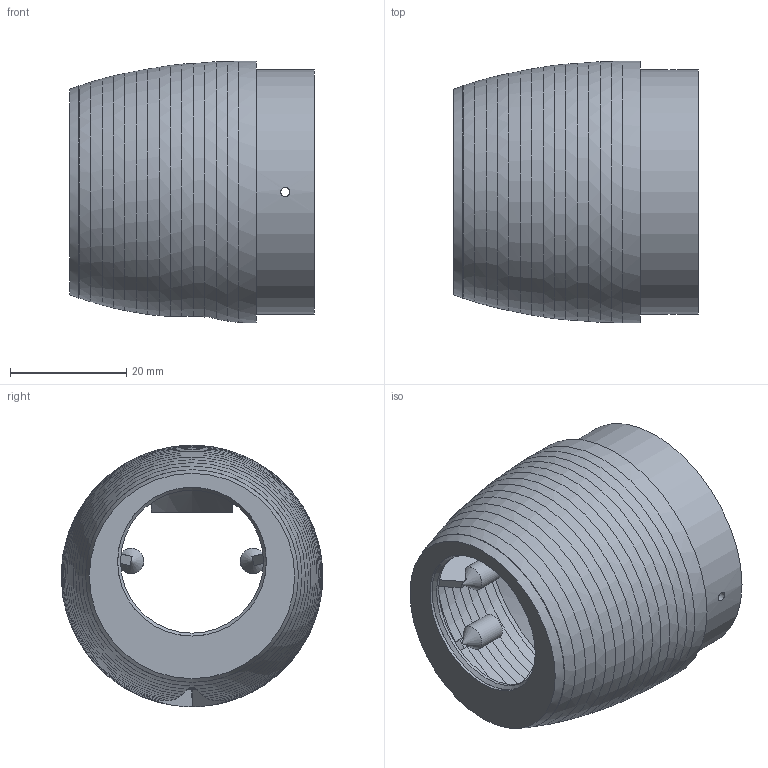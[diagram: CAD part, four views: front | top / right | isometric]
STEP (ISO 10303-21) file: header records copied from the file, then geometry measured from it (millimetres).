
FILE_DESCRIPTION(('Open CASCADE Model'),'2;1');
FILE_NAME('Open CASCADE Shape Model','2026-10-04T08:08:20',('Author'),( 'Open CASCADE'),'Open CASCADE STEP processor 7.9','Open CASCADE 7.9' ,'Unknown');
FILE_SCHEMA(('AUTOMOTIVE_DESIGN { 1 0 10303 214 1 1 1 1 }'));
Length unit declared in the file: millimetre
Products named in the file (1): Open CASCADE STEP translator 7.9 7
Bounding box: 42.1 x 45 x 45 mm (x, y, z)
Volume: 11750.8 mm3; surface area: 14182.7 mm2
Topology: 1 solids, 1 shells, 267 faces, 741 edges, 479 vertices
Faces by surface type: plane 111, cone 104, bspline 33, cylinder 19
Full cylindrical faces by diameter (mm): 1.6 x6, 24.598 x1, 25.605 x1, 38.8 x1, 42 x1, 45 x1
Entity records: 21075 total; most frequent: CARTESIAN_POINT 7663, DIRECTION 2211, ORIENTED_EDGE 1474, PCURVE 1474, DEFINITIONAL_REPRESENTATION 1474, LINE 877, VECTOR 877, EDGE_CURVE 737
